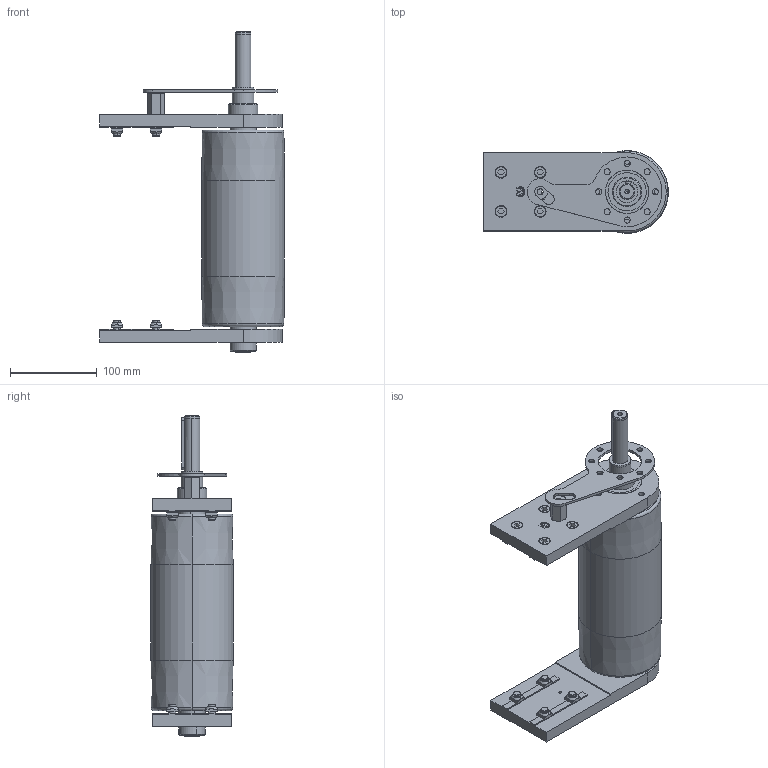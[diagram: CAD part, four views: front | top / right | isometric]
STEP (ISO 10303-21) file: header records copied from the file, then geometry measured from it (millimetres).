
FILE_DESCRIPTION (( 'STEP AP203' ), '1' );
FILE_NAME ('084.095.KDC.44.200.STEP', '2019-07-30T07:28:13', ( '' ), ( '' ), 'SwSTEP 2.0', 'SolidWorks 2018', '' );
FILE_SCHEMA (( 'CONFIG_CONTROL_DESIGN' ));
Length unit declared in the file: millimetre
Products named in the file (15): 084.810.003; 084.802.027; 084.808.006_084.808.002; 084.812.003; 084.095.KDC.44.200; 084.812.001; 084.802.019_084.802.019; 084.301.000 VITI ALUSIC_084.301.003; 084.802.034_084.802.034; Circlip DIN 471 - 30 x 1.5_Circlip DIN 471 - 30 x 1.5; CHIAVETTE_A 6x6x60 UNI 6604-69; 084.807.005; 084.808.007_084.808.007; 084.302.000 DADI ALUSIC 13x13_084.302.004; 084.816.101_084.816.107<A macchina>
Assembly tree (30 placements, depth 2):
  084.095.KDC.44.200
    084.802.027
    084.807.005
    084.812.001
    084.802.034_084.802.034
    084.301.000 VITI ALUSIC_084.301.003  x8
    084.302.000 DADI ALUSIC 13x13_084.302.004  x8
    084.816.101_084.816.107<A macchina>
    084.812.003
    084.808.007_084.808.007
    084.808.006_084.808.002
    084.810.003  x2
    084.802.019_084.802.019
    CHIAVETTE_A 6x6x60 UNI 6604-69
    Circlip DIN 471 - 30 x 1.5_Circlip DIN 471 - 30 x 1.5  x2
Bounding box: 212.5 x 95 x 368.5 mm (x, y, z)
Volume: 1147042.4 mm3; surface area: 441822.9 mm2
Topology: 35 solids, 36 shells, 863 faces, 2168 edges, 1407 vertices
Faces by surface type: plane 361, cylinder 301, torus 76, cone 68, bspline 48, sphere 9
Entity records: 20631 total; most frequent: CARTESIAN_POINT 4193, DIRECTION 3110, ORIENTED_EDGE 2940, EDGE_CURVE 1470, AXIS2_PLACEMENT_3D 1225, VERTEX_POINT 956, EDGE_LOOP 694, CIRCLE 663
